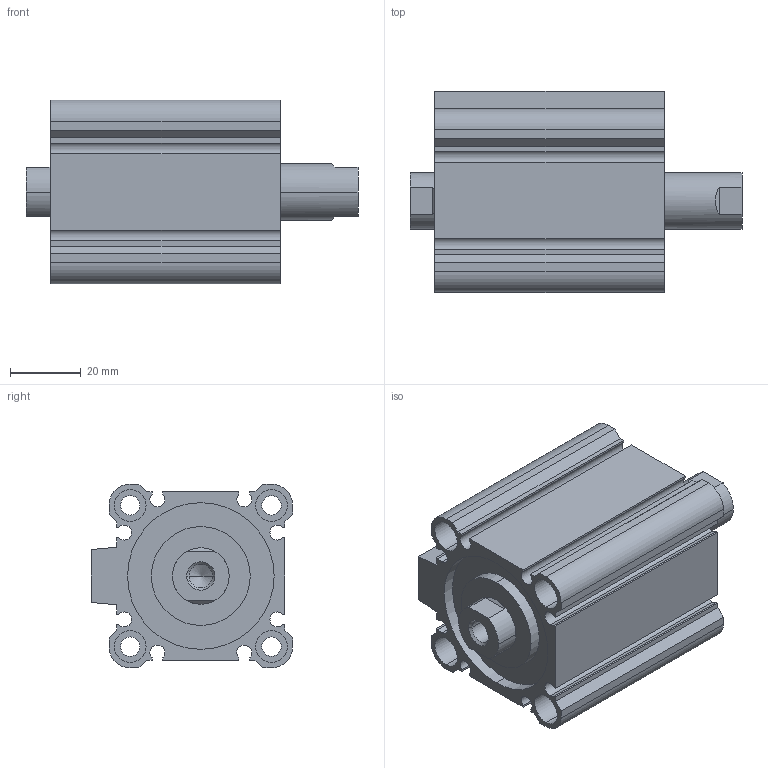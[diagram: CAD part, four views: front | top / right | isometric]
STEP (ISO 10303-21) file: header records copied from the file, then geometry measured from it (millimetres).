
FILE_DESCRIPTION (( 'STEP AP203' ), '1' );
FILE_NAME ('CCMB40-15F-P.STEP', '2020-08-05T11:23:21', ( '' ), ( '' ), 'SwSTEP 2.0', 'SolidWorks 2019', '' );
FILE_SCHEMA (( 'CONFIG_CONTROL_DESIGN' ));
Length unit declared in the file: millimetre
Products named in the file (1): CCMB40-15F-P
Bounding box: 94 x 57 x 52 mm (x, y, z)
Volume: 129521.9 mm3; surface area: 48280.9 mm2
Topology: 2 solids, 2 shells, 164 faces, 414 edges, 270 vertices
Faces by surface type: plane 78, cylinder 74, cone 12
Entity records: 5029 total; most frequent: DIRECTION 896, CARTESIAN_POINT 857, ORIENTED_EDGE 820, EDGE_CURVE 410, AXIS2_PLACEMENT_3D 325, VERTEX_POINT 270, VECTOR 246, LINE 246
